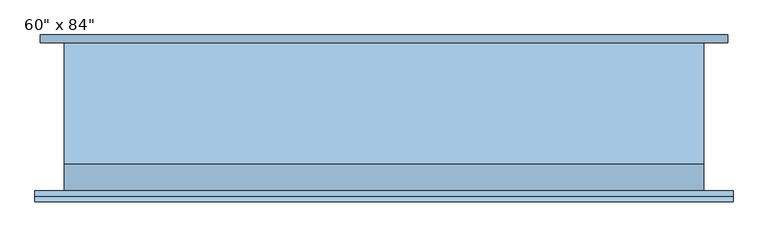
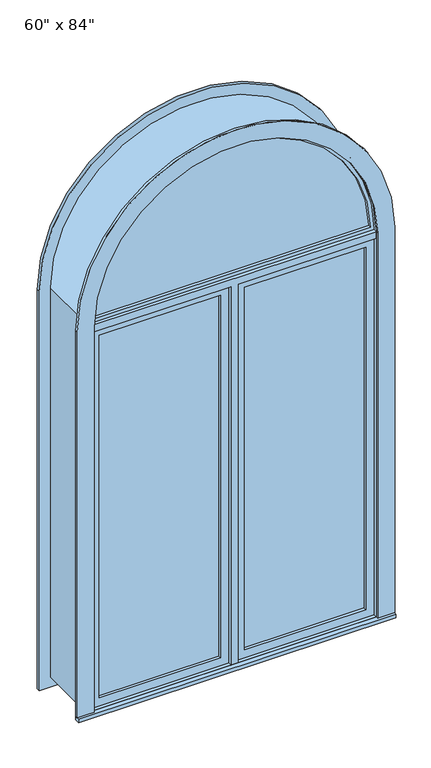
"""IFC4 building model written with IfcOpenShell, lengths in millimetres: window geometry."""

from ifc_helpers import new_model, si_unit, point, frame, frame_2d, origin, place, context, project, spatial, polyline, circle_curve, trimmed, segment, composite_curve, outline, extrude, source, transform, mapped, element, save


def window_e38a858d(model_context):
    return source(origin(), model_context, "Body", "SweptSolid", [
        extrude(outline(composite_curve([segment(polyline([(2457.45, -811.1478419), (247.65, -811.1478419), (247.65, 827.1521581), (2457.45, 827.1521581)]), True, "CONTINUOUS"), segment(trimmed(circle_curve(frame_2d((2457.45, 8.0021581)), 819.15), [point((2457.45, 827.1521581))], [point((2457.45, -811.1478419))], False, "CARTESIAN"), True, "CONTINUOUS")], self_intersect=False), holes=[composite_curve([segment(trimmed(circle_curve(frame_2d((2457.45, 8.0021581)), 730.25), [point((2457.45, -722.2478419))], [point((2457.45, 738.2521581))], True, "CARTESIAN"), True, "CONTINUOUS"), segment(polyline([(2457.45, 738.2521581), (336.55, 738.2521581), (336.55, -722.2478419), (2457.45, -722.2478419)]), True, "CONTINUOUS")], self_intersect=False)]), frame((0.0, 176.2125, 0.0), z_axis=(0.0, 1.0, 0.0), x_axis=(0.0, 0.0, 1.0)), (0.0, 0.0, 1.0), 19.05),
        extrude(outline(composite_curve([segment(trimmed(circle_curve(frame_2d((2457.45, 8.0021581)), 723.8331362), [point((2476.4999995, 731.5845699))], [point((2476.4999995, -715.5802537))], False, "CARTESIAN"), True, "CONTINUOUS"), segment(polyline([(2476.4999995, -715.5802537), (2476.4999995, 731.5845699)]), True, "CONTINUOUS")], self_intersect=False)), frame((0.0, -141.2875, 0.0), z_axis=(0.0, 1.0, 0.0), x_axis=(0.0, 0.0, 1.0)), (0.0, 0.0, 1.0), 12.7),
        extrude(outline(composite_curve([segment(trimmed(circle_curve(frame_2d((2457.45, 8.0021581)), 742.95), [point((2457.45, 750.9521581))], [point((2457.45, -734.9478419))], False, "CARTESIAN"), True, "CONTINUOUS"), segment(polyline([(2457.45, -734.9478419), (2457.45, 750.9521581)]), True, "CONTINUOUS")], self_intersect=False), holes=[composite_curve([segment(polyline([(2476.4999995, 731.5845698), (2476.4999995, -715.5802537)]), True, "CONTINUOUS"), segment(trimmed(circle_curve(frame_2d((2457.45, 8.0021581)), 723.8331362), [point((2476.4999995, -715.5802537))], [point((2476.4999995, 731.5845698))], True, "CARTESIAN"), True, "CONTINUOUS")], self_intersect=False)]), frame((0.0, -157.1625, 0.0), z_axis=(0.0, 1.0, 0.0), x_axis=(0.0, 0.0, 1.0)), (0.0, 0.0, 1.0), 44.45),
        extrude(outline(composite_curve([segment(polyline([(304.8, -753.9978419), (304.8, 770.0021581), (2457.45, 770.0021581)]), True, "CONTINUOUS"), segment(trimmed(circle_curve(frame_2d((2457.45, 8.0021581)), 762.0), [point((2457.45, 770.0021581))], [point((2457.45, -753.9978419))], False, "CARTESIAN"), True, "CONTINUOUS"), segment(polyline([(2457.45, -753.9978419), (304.8, -753.9978419)]), True, "CONTINUOUS")], self_intersect=False), holes=[composite_curve([segment(polyline([(323.85, -734.9478419), (2457.45, -734.9478419)]), True, "CONTINUOUS"), segment(trimmed(circle_curve(frame_2d((2457.45, 8.0021581)), 742.95), [point((2457.45, -734.9478419))], [point((2457.45, 750.9521581))], True, "CARTESIAN"), True, "CONTINUOUS"), segment(polyline([(2457.45, 750.9521581), (323.85, 750.9521581), (323.85, -734.9478419)]), True, "CONTINUOUS")], self_intersect=False)]), frame((0.0, -176.2125, 0.0), z_axis=(0.0, 1.0, 0.0), x_axis=(0.0, 0.0, 1.0)), (0.0, 0.0, 1.0), 63.5),
        extrude(outline(polyline([(71.5021581, -141.2875), (71.5021581, -128.5875), (706.5021581, -128.5875), (706.5021581, -141.2875), (71.5021581, -141.2875)])), frame((0.0, 0.0, 368.3), z_axis=(0.0, 0.0, 1.0), x_axis=(1.0, 0.0, 0.0)), (0.0, 0.0, 1.0), 2006.6),
        extrude(outline(polyline([(2419.35, 27.0521581), (323.85, 27.0521581), (323.85, 750.9521581), (2419.35, 750.9521581), (2419.35, 27.0521581)]), holes=[polyline([(2374.9, 71.5021581), (2374.9, 706.5021581), (368.3, 706.5021581), (368.3, 71.5021581), (2374.9, 71.5021581)])]), frame((0.0, -157.1625, 0.0), z_axis=(0.0, 1.0, 0.0), x_axis=(0.0, 0.0, 1.0)), (0.0, 0.0, 1.0), 44.45),
        extrude(outline(polyline([(323.85, -11.0478419), (323.85, 27.0521581), (2419.35, 27.0521581), (2419.35, 750.9521581), (2457.45, 750.9521581), (2457.45, -734.9478419), (2419.35, -734.9478419), (2419.35, -11.0478419), (323.85, -11.0478419)])), frame((0.0, -176.2125, 0.0), z_axis=(0.0, 1.0, 0.0), x_axis=(0.0, 0.0, 1.0)), (0.0, 0.0, 1.0), 63.5),
        extrude(outline(polyline([(-823.8478419, -201.6125), (-823.8478419, -176.2125), (839.8521581, -176.2125), (839.8521581, -201.6125), (-823.8478419, -201.6125)])), frame((0.0, 0.0, 304.8), z_axis=(0.0, 0.0, 1.0), x_axis=(1.0, 0.0, 0.0)), (0.0, 0.0, 1.0), 19.05),
        extrude(outline(composite_curve([segment(polyline([(323.85, 750.9521581), (323.85, 839.8521581), (2457.45, 839.8521581)]), True, "CONTINUOUS"), segment(trimmed(circle_curve(frame_2d((2457.45, 8.0021581)), 831.85), [point((2457.45, 839.8521581))], [point((2457.45, -823.8478419))], False, "CARTESIAN"), True, "CONTINUOUS"), segment(polyline([(2457.45, -823.8478419), (323.85, -823.8478419), (323.85, -734.9478419), (2457.45, -734.9478419)]), True, "CONTINUOUS"), segment(trimmed(circle_curve(frame_2d((2457.45, 8.0021581)), 742.95), [point((2457.45, -734.9478419))], [point((2457.45, 750.9521581))], True, "CARTESIAN"), True, "CONTINUOUS"), segment(polyline([(2457.45, 750.9521581), (323.85, 750.9521581)]), True, "CONTINUOUS")], self_intersect=False)), frame((0.0, -188.9125, 0.0), z_axis=(0.0, 1.0, 0.0), x_axis=(0.0, 0.0, 1.0)), (0.0, 0.0, 1.0), 12.7),
        extrude(outline(polyline([(-55.4978419, -128.5875), (-55.4978419, -141.2875), (-690.4978419, -141.2875), (-690.4978419, -128.5875), (-55.4978419, -128.5875)])), frame((0.0, 0.0, 368.3), z_axis=(0.0, 0.0, 1.0), x_axis=(1.0, 0.0, 0.0)), (0.0, 0.0, 1.0), 2006.6),
        extrude(outline(polyline([(2419.35, -734.9478419), (323.85, -734.9478419), (323.85, -11.0478419), (2419.35, -11.0478419), (2419.35, -734.9478419)]), holes=[polyline([(2374.9, -690.4978419), (2374.9, -55.4978419), (368.3, -55.4978419), (368.3, -690.4978419), (2374.9, -690.4978419)])]), frame((0.0, -157.1625, 0.0), z_axis=(0.0, 1.0, 0.0), x_axis=(0.0, 0.0, 1.0)), (0.0, 0.0, 1.0), 44.45),
        extrude(outline(composite_curve([segment(polyline([(304.8, 770.0021581), (2457.45, 770.0021581)]), True, "CONTINUOUS"), segment(trimmed(circle_curve(frame_2d((2457.45, 8.0021581)), 762.0), [point((2457.45, 770.0021581))], [point((2457.45, -753.9978419))], False, "CARTESIAN"), True, "CONTINUOUS"), segment(polyline([(2457.45, -753.9978419), (304.8, -753.9978419), (304.8, 770.0021581)]), True, "CONTINUOUS")], self_intersect=False), holes=[composite_curve([segment(polyline([(336.55, 738.2521581), (336.55, -722.2478419), (2457.45, -722.2478419)]), True, "CONTINUOUS"), segment(trimmed(circle_curve(frame_2d((2457.45, 8.0021581)), 730.25), [point((2457.45, -722.2478419))], [point((2457.45, 738.2521581))], True, "CARTESIAN"), True, "CONTINUOUS"), segment(polyline([(2457.45, 738.2521581), (336.55, 738.2521581)]), True, "CONTINUOUS")], self_intersect=False)]), frame((0.0, -112.7125, 0.0), z_axis=(0.0, 1.0, 0.0), x_axis=(0.0, 0.0, 1.0)), (0.0, 0.0, 1.0), 288.925),
    ])


if __name__ == "__main__":
    model = new_model("IFC4")
    model_context = context("Model", 3, world=origin())
    ifc_project = project(units=[si_unit("LENGTHUNIT", "METRE", prefix="MILLI")], contexts=[model_context])
    site = spatial("IfcSite", under=ifc_project)
    building = spatial("IfcBuilding", under=site)
    placement = place(None, origin())
    window_shape = window_e38a858d(model_context)
    element("IfcWindow", 1, ObjectType="Combination Rtp with Trim : 60\" x 84\"", at=placement, inside=building, context=model_context, shape_type="MappedRepresentation", body=[
        mapped(window_shape, transform((0.0, 0.0, 0.0), x_axis=(1.0, 0.0, 0.0), y_axis=(0.0, 1.0, 0.0), z_axis=(0.0, 0.0, 1.0))),
    ])
    save(model, "model.ifc")
